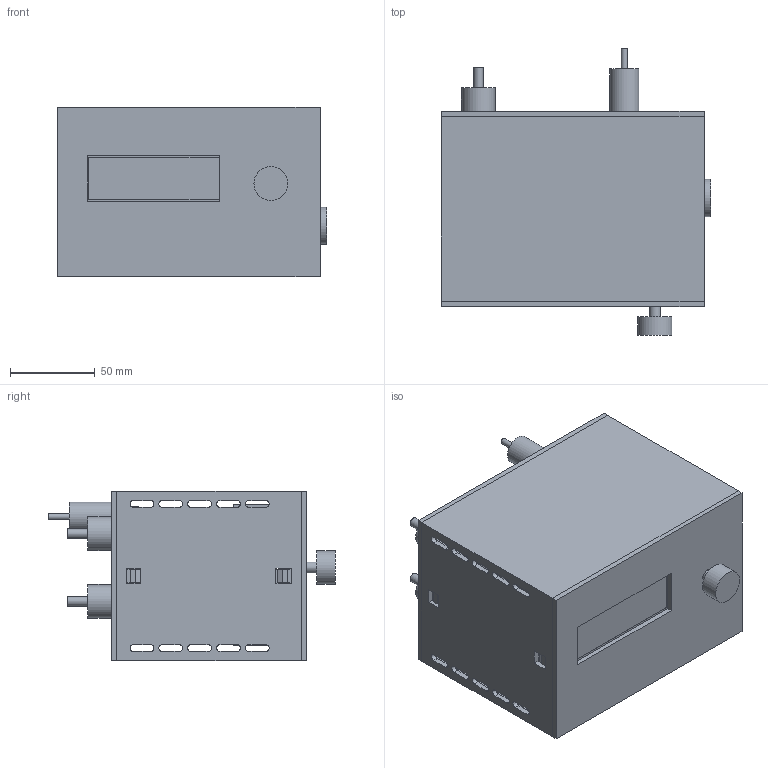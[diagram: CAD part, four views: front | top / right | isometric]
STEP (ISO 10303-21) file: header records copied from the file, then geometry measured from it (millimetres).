
FILE_DESCRIPTION(('Open CASCADE Model'),'2;1');
FILE_NAME('Open CASCADE Shape Model','2026-11-05T13:32:27',('Author'),( 'Open CASCADE'),'Open CASCADE STEP processor 7.8','Open CASCADE 7.8' ,'Unknown');
FILE_SCHEMA(('AUTOMOTIVE_DESIGN { 1 0 10303 214 1 1 1 1 }'));
Length unit declared in the file: millimetre
Products named in the file (110): Laboratory_controller_fit_study_06_side_vents; 01_Pieces_imprimees; 05_XL4015_removable_carrier; 01_Shell_open_front_and_rear; 02_Removable_front_LCD_A; 03_B_removable_carrier; 04_Rear_panel_with_latches; 02_Carte_A_reference; PCB_A; A_C1_ENVELOPE; A_C2_ENVELOPE; A_C3_ENVELOPE; A_D1_ENVELOPE; A_D2_ENVELOPE; A_J1_ENVELOPE; A_J2_ENVELOPE; A_J3_ENVELOPE; A_J4_ENVELOPE; A_J5_ENVELOPE; A_J6_ENVELOPE; A_J7_ENVELOPE; A_JP1_ENVELOPE; A_R1_ENVELOPE; A_R2_ENVELOPE; A_R3_ENVELOPE; A_R4_ENVELOPE; A_R5_ENVELOPE; A_R6_ENVELOPE; A_R7_ENVELOPE; A_U2_ENVELOPE; A_DEVKIT_SOCKET_34.03; A_DEVKIT_SOCKET_59.43; A_DIYMORE_PCB_54x27; A_DIYMORE_RF_SHIELD; A_DIYMORE_CH340; A_DIYMORE_USB_C; 03_Carte_B_reference; PCB_B; B_C1_ENVELOPE; B_C2_ENVELOPE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
Assembly tree (109 placements, depth 3):
  Laboratory_controller_fit_study_06_side_vents
    01_Pieces_imprimees
      05_XL4015_removable_carrier
      01_Shell_open_front_and_rear
      02_Removable_front_LCD_A
      03_B_removable_carrier
      04_Rear_panel_with_latches
    02_Carte_A_reference
      PCB_A
      A_C1_ENVELOPE
      A_C2_ENVELOPE
      A_C3_ENVELOPE
      A_D1_ENVELOPE
      A_D2_ENVELOPE
      A_J1_ENVELOPE
      A_J2_ENVELOPE
      A_J3_ENVELOPE
      A_J4_ENVELOPE
      A_J5_ENVELOPE
      A_J6_ENVELOPE
      A_J7_ENVELOPE
      A_JP1_ENVELOPE
      A_R1_ENVELOPE
      A_R2_ENVELOPE
      A_R3_ENVELOPE
      A_R4_ENVELOPE
      A_R5_ENVELOPE
      A_R6_ENVELOPE
      A_R7_ENVELOPE
      A_U2_ENVELOPE
      A_DEVKIT_SOCKET_34.03
      A_DEVKIT_SOCKET_59.43
      A_DIYMORE_PCB_54x27
      A_DIYMORE_RF_SHIELD
      A_DIYMORE_CH340
      A_DIYMORE_USB_C
    03_Carte_B_reference
      PCB_B
      B_C1_ENVELOPE
      B_C2_ENVELOPE
      B_C3_ENVELOPE
      B_C4_ENVELOPE
      B_C5_ENVELOPE
      B_C6_ENVELOPE
      B_C7_ENVELOPE
      B_C8_ENVELOPE
      B_D2_ENVELOPE
      B_D3_ENVELOPE
      B_D4_ENVELOPE
      B_D5_ENVELOPE
      B_D6_ENVELOPE
      B_D7_ENVELOPE
      B_D8_ENVELOPE
      B_F1_ENVELOPE
      B_F2_ENVELOPE
      B_J1_ENVELOPE
      B_J2_ENVELOPE
      B_J3_ENVELOPE
      B_J4_ENVELOPE
      B_J6_ENVELOPE
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Bounding box: 159 x 169 x 100 mm (x, y, z)
Volume: 443022.2 mm3; surface area: 335922.6 mm2
Topology: 102 solids, 102 shells, 1167 faces, 2780 edges, 1841 vertices
Faces by surface type: plane 1082, cylinder 85
Full cylindrical faces by diameter (mm): 2.2 x12, 3 x3, 3.5 x1, 4.3 x1, 5.5 x2, 6.3 x2, 6.4 x1, 7.2 x1, 8 x1, 12 x6, 12.4 x1, 12.5 x2, 15 x2, 16 x1, 17 x2, 20 x5, 22 x2
Entity records: 71166 total; most frequent: CARTESIAN_POINT 12916, DIRECTION 9900, LINE 6775, VECTOR 6775, ORIENTED_EDGE 5560, PCURVE 5560, DEFINITIONAL_REPRESENTATION 5560, EDGE_CURVE 2780
